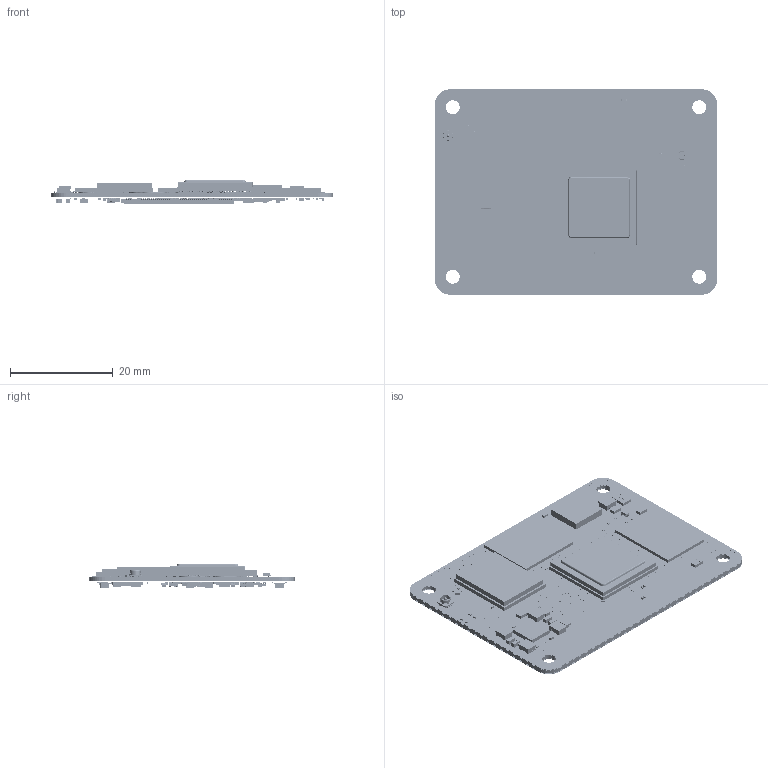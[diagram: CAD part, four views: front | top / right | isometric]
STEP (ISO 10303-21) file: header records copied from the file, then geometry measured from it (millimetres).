
FILE_DESCRIPTION(/* description */ (''),/* implementation_level */ '2;1');
FILE_NAME(/* name */ 'C:/Users/carl/Documents/MYCAD/CM4/CM4-SAT-STP.step',/* time_stamp */ '2020-10-27T13:22:58+00:00',/* author */ (''),/* organization */ (''),/* preprocessor_version */ 'ST-DEVELOPER v18.1',/* originating_system */ 'Autodesk Translation Framework v9.3.0.1241',/* authorisation */ '');
FILE_SCHEMA (('AUTOMOTIVE_DESIGN { 1 0 10303 214 3 1 1 }'));
Products named in the file (1): (Unsaved)
Bounding box: 55 x 40 x 4.78 mm (x, y, z)
Volume: 3087.4 mm3; surface area: 33885.8 mm2
Topology: 2262 solids, 2263 shells, 34061 faces, 82944 edges, 52183 vertices
Faces by surface type: plane 22544, cylinder 7361, sphere 2655, bspline 1467, torus 22, cone 12
Full cylindrical faces by diameter (mm): 0.12 x1, 0.142 x2, 0.25 x66, 0.28 x171, 0.3 x159, 0.32 x631, 0.35 x154, 0.37 x631, 0.4 x2, 0.447 x2, 0.5 x1, 0.538 x1, 0.54 x1, 0.7 x1, 1.2 x1, 1.694 x1, 1.7 x1, 1.855 x1, 1.994 x1, 2 x17, 2.7 x20, 2.9 x6, 5.8 x8
Entity records: 1106483 total; most frequent: CARTESIAN_POINT 296262, ORIENTED_EDGE 160537, DIRECTION 158865, EDGE_CURVE 80269, LINE 61027, VECTOR 61027, VERTEX_POINT 52183, AXIS2_PLACEMENT_3D 48919
